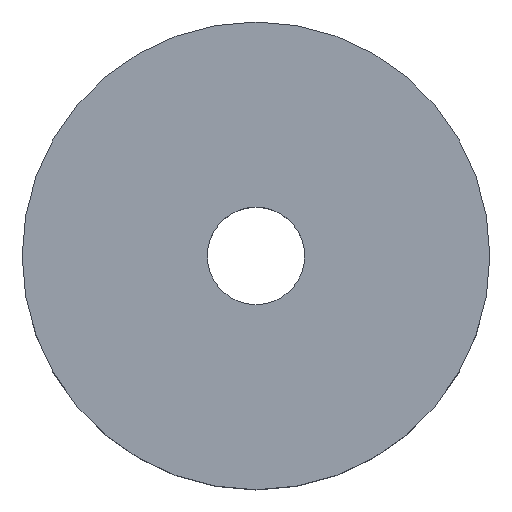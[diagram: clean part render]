
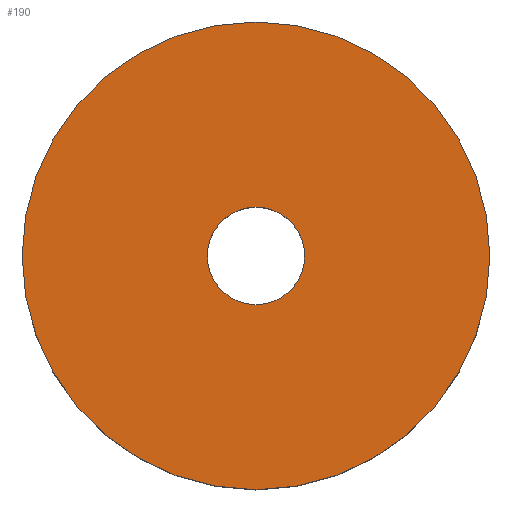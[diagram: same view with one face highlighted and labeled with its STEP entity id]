
A CAD part, top view. The second image highlights one B-rep face of the part: STEP entity #190.
In plain terms, the highlighted planar face has unit normal (0, 0, 1).
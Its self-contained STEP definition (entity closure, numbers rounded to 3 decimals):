
#24 = VERTEX_POINT('',#25);
#25 = CARTESIAN_POINT('',(120.,0.,640.));
#32 = CYLINDRICAL_SURFACE('',#33,120.);
#33 = AXIS2_PLACEMENT_3D('',#34,#35,#36);
#34 = CARTESIAN_POINT('',(0.,0.,560.));
#35 = DIRECTION('',(-0.,-0.,-1.));
#36 = DIRECTION('',(1.,0.,0.));
#51 = EDGE_CURVE('',#24,#24,#52,.T.);
#52 = SURFACE_CURVE('',#53,(#58,#65),.PCURVE_S1.);
#53 = CIRCLE('',#54,120.);
#54 = AXIS2_PLACEMENT_3D('',#55,#56,#57);
#55 = CARTESIAN_POINT('',(0.,0.,640.));
#56 = DIRECTION('',(0.,0.,1.));
#57 = DIRECTION('',(1.,0.,0.));
#58 = PCURVE('',#32,#59);
#59 = DEFINITIONAL_REPRESENTATION('',(#60),#64);
#60 = LINE('',#61,#62);
#61 = CARTESIAN_POINT('',(-0.,-80.));
#62 = VECTOR('',#63,1.);
#63 = DIRECTION('',(-1.,0.));
#64 = ( GEOMETRIC_REPRESENTATION_CONTEXT(2) 
PARAMETRIC_REPRESENTATION_CONTEXT() REPRESENTATION_CONTEXT('2D SPACE',''
  ) );
#65 = PCURVE('',#66,#71);
#66 = PLANE('',#67);
#67 = AXIS2_PLACEMENT_3D('',#68,#69,#70);
#68 = CARTESIAN_POINT('',(0.,0.,640.));
#69 = DIRECTION('',(0.,0.,1.));
#70 = DIRECTION('',(1.,0.,-0.));
#71 = DEFINITIONAL_REPRESENTATION('',(#72),#76);
#72 = CIRCLE('',#73,120.);
#73 = AXIS2_PLACEMENT_2D('',#74,#75);
#74 = CARTESIAN_POINT('',(0.,0.));
#75 = DIRECTION('',(1.,0.));
#76 = ( GEOMETRIC_REPRESENTATION_CONTEXT(2) 
PARAMETRIC_REPRESENTATION_CONTEXT() REPRESENTATION_CONTEXT('2D SPACE',''
  ) );
#112 = VERTEX_POINT('',#113);
#113 = CARTESIAN_POINT('',(25.,0.,640.));
#120 = CYLINDRICAL_SURFACE('',#121,25.);
#121 = AXIS2_PLACEMENT_3D('',#122,#123,#124);
#122 = CARTESIAN_POINT('',(0.,0.,560.)
  );
#123 = DIRECTION('',(-0.,-0.,-1.));
#124 = DIRECTION('',(1.,0.,0.));
#139 = EDGE_CURVE('',#112,#112,#140,.T.);
#140 = SURFACE_CURVE('',#141,(#146,#153),.PCURVE_S1.);
#141 = CIRCLE('',#142,25.);
#142 = AXIS2_PLACEMENT_3D('',#143,#144,#145);
#143 = CARTESIAN_POINT('',(0.,0.,640.)
  );
#144 = DIRECTION('',(0.,0.,1.));
#145 = DIRECTION('',(1.,0.,0.));
#146 = PCURVE('',#120,#147);
#147 = DEFINITIONAL_REPRESENTATION('',(#148),#152);
#148 = LINE('',#149,#150);
#149 = CARTESIAN_POINT('',(-0.,-80.));
#150 = VECTOR('',#151,1.);
#151 = DIRECTION('',(-1.,0.));
#152 = ( GEOMETRIC_REPRESENTATION_CONTEXT(2) 
PARAMETRIC_REPRESENTATION_CONTEXT() REPRESENTATION_CONTEXT('2D SPACE',''
  ) );
#153 = PCURVE('',#66,#154);
#154 = DEFINITIONAL_REPRESENTATION('',(#155),#159);
#155 = CIRCLE('',#156,25.);
#156 = AXIS2_PLACEMENT_2D('',#157,#158);
#157 = CARTESIAN_POINT('',(0.,0.));
#158 = DIRECTION('',(1.,0.));
#159 = ( GEOMETRIC_REPRESENTATION_CONTEXT(2) 
PARAMETRIC_REPRESENTATION_CONTEXT() REPRESENTATION_CONTEXT('2D SPACE',''
  ) );
#190 = ADVANCED_FACE('',(#191,#194),#66,.T.);
#191 = FACE_BOUND('',#192,.T.);
#192 = EDGE_LOOP('',(#193));
#193 = ORIENTED_EDGE('',*,*,#51,.T.);
#194 = FACE_BOUND('',#195,.T.);
#195 = EDGE_LOOP('',(#196));
#196 = ORIENTED_EDGE('',*,*,#139,.F.);
